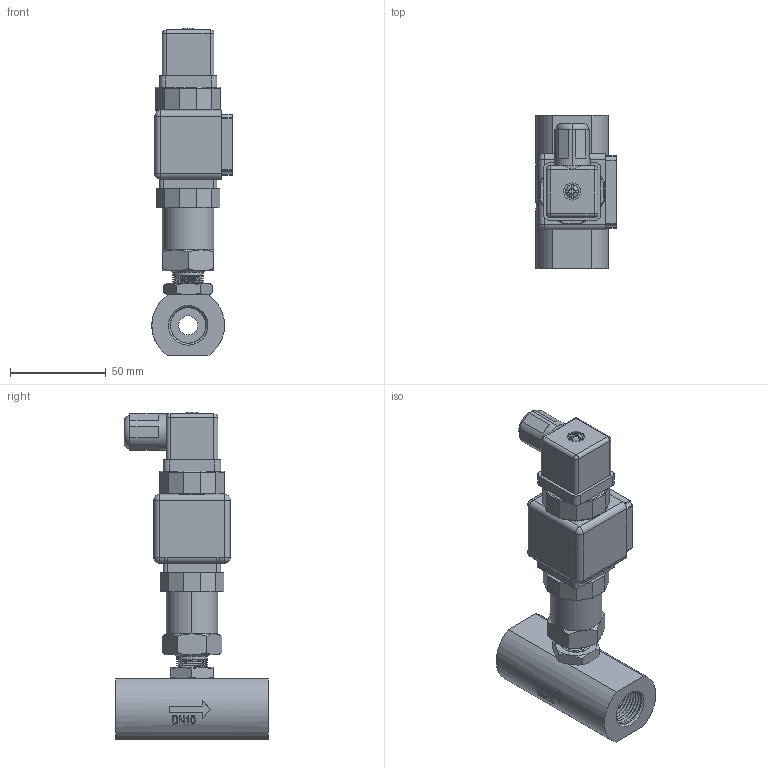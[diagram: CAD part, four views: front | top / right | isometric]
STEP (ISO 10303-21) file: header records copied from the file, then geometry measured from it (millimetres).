
FILE_DESCRIPTION( (''), '2;1');
FILE_NAME( 'QTKB_DN10_female-thread_DIN-plug_display.step', '2025-04-16T14:58:54+08:00', (''), (''), '', '', '');
FILE_SCHEMA (('AUTOMOTIVE_DESIGN { 1 0 10303 214 3 1 1 1 }'));
Length unit declared in the file: millimetre
Products named in the file (1): QTKB DN10_female-thread_DIN-plug_display
Bounding box: 42 x 80 x 171.48 mm (x, y, z)
Volume: 196128.3 mm3; surface area: 45085.5 mm2
Topology: 5 solids, 8 shells, 632 faces, 1651 edges, 1070 vertices
Faces by surface type: plane 272, cylinder 170, extrusion 117, cone 35, bspline 26, sphere 8, torus 4
Full cylindrical faces by diameter (mm): 18.631 x16, 25 x1
Entity records: 25802 total; most frequent: CARTESIAN_POINT 11283, ORIENTED_EDGE 3184, DIRECTION 2576, EDGE_CURVE 1592, VERTEX_POINT 1040, VECTOR 940, LINE 823, AXIS2_PLACEMENT_3D 818
